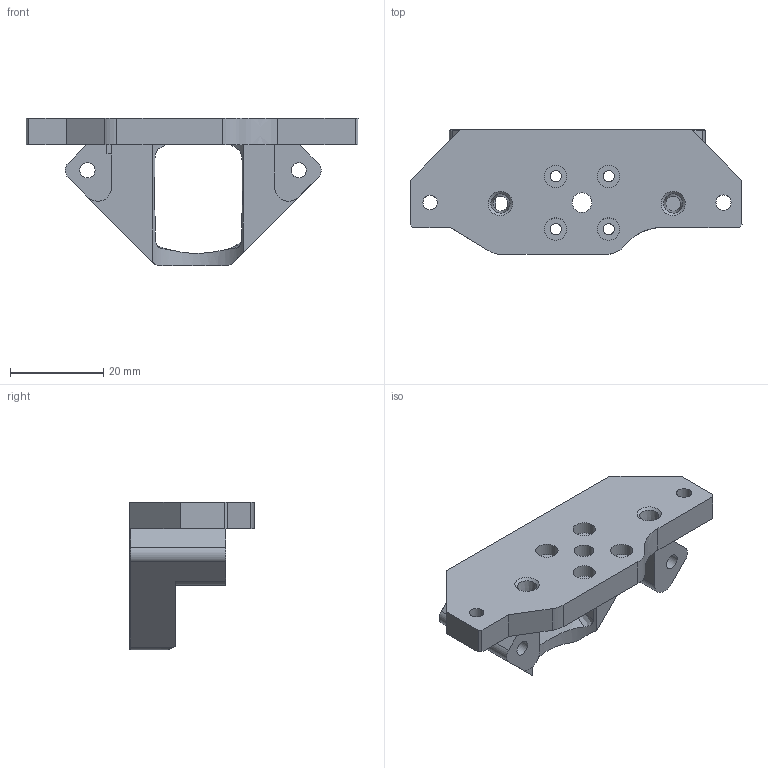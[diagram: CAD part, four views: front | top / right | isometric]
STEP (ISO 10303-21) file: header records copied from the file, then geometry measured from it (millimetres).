
FILE_DESCRIPTION(/* description */ (''),/* implementation_level */ '2;1');
FILE_NAME(/* name */ 'C:/Users/Martin/Documents/icarus-2.1/icarus-2-current-step-files/2-mounts/mount-orbiter-2.0-dragon-2.1.step',/* time_stamp */ '2022-08-22T21:31:17+02:00',/* author */ (''),/* organization */ (''),/* preprocessor_version */ 'ST-DEVELOPER v19',/* originating_system */ 'Autodesk Translation Framework v11.7.0.108',/* authorisation */ '');
FILE_SCHEMA (('AUTOMOTIVE_DESIGN { 1 0 10303 214 3 1 1 }'));
Length unit declared in the file: millimetre
Products named in the file (1): icarus-2-hotend-extruder-mounts
Bounding box: 71.07 x 26.66 x 31.68 mm (x, y, z)
Volume: 13620.5 mm3; surface area: 7552.4 mm2
Topology: 1 solids, 1 shells, 88 faces, 251 edges, 166 vertices
Faces by surface type: plane 39, cylinder 23, bspline 18, cone 8
Full cylindrical faces by diameter (mm): 2.4 x4, 3.1 x1, 3.25 x4, 4.2 x1, 4.8 x4
Entity records: 3992 total; most frequent: CARTESIAN_POINT 1717, ORIENTED_EDGE 502, DIRECTION 396, EDGE_CURVE 251, VERTEX_POINT 166, LINE 132, VECTOR 132, AXIS2_PLACEMENT_3D 132
